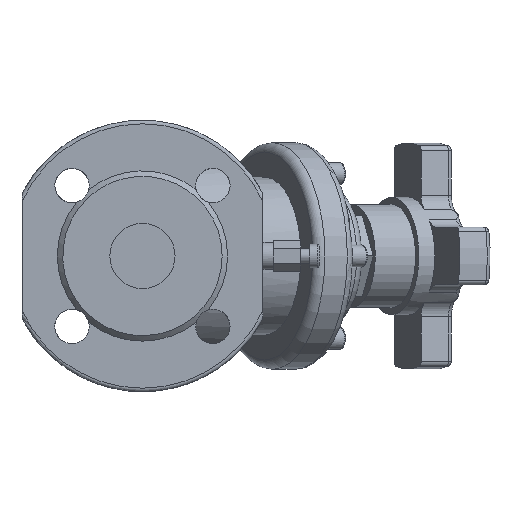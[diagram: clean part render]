
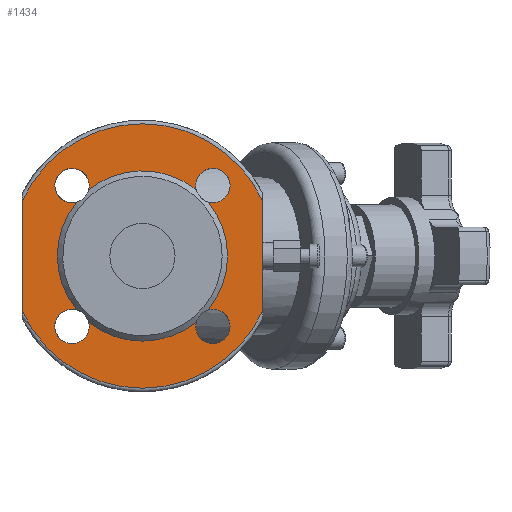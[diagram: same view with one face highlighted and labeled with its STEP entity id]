
A CAD part, left-side view. The second image highlights one B-rep face of the part: STEP entity #1434.
In plain terms, the highlighted planar face has unit normal (-1, 0, 0).
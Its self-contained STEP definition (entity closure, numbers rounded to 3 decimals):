
#1434=ADVANCED_FACE('',(#8495,#8497),#8499,.F.);
#8495=FACE_BOUND('',#8496,.T.);
#8496=EDGE_LOOP('',(#10005,#10006,#10007,#10008));
#8497=FACE_BOUND('',#8498,.T.);
#8498=EDGE_LOOP('',(#10009,#10010,#10011,#10012,#10013,#10014,#10015,#10016,#10017,
#10018,#10019,#10020,#10021));
#8499=PLANE('',#8500);
#8500=AXIS2_PLACEMENT_3D('',#8501,#8502,#8503);
#8501=CARTESIAN_POINT('',(19150.629,1591.446,0.));
#8502=DIRECTION('',(1.,0.,0.));
#8503=DIRECTION('',(0.,0.,1.));
#10005=ORIENTED_EDGE('',*,*,#10907,.F.);
#10006=ORIENTED_EDGE('',*,*,#10529,.T.);
#10007=ORIENTED_EDGE('',*,*,#10909,.F.);
#10008=ORIENTED_EDGE('',*,*,#10903,.T.);
#10009=ORIENTED_EDGE('',*,*,#10910,.F.);
#10010=ORIENTED_EDGE('',*,*,#10911,.F.);
#10011=ORIENTED_EDGE('',*,*,#10912,.F.);
#10012=ORIENTED_EDGE('',*,*,#10913,.F.);
#10013=ORIENTED_EDGE('',*,*,#10914,.F.);
#10014=ORIENTED_EDGE('',*,*,#10915,.F.);
#10015=ORIENTED_EDGE('',*,*,#10916,.F.);
#10016=ORIENTED_EDGE('',*,*,#10917,.F.);
#10017=ORIENTED_EDGE('',*,*,#10918,.F.);
#10018=ORIENTED_EDGE('',*,*,#10919,.F.);
#10019=ORIENTED_EDGE('',*,*,#10920,.F.);
#10020=ORIENTED_EDGE('',*,*,#10921,.F.);
#10021=ORIENTED_EDGE('',*,*,#10922,.F.);
#10529=EDGE_CURVE('',#11211,#11209,#11212,.T.);
#10903=EDGE_CURVE('',#11835,#11833,#11836,.T.);
#10907=EDGE_CURVE('',#11211,#11833,#11842,.T.);
#10909=EDGE_CURVE('',#11835,#11209,#11844,.T.);
#10910=EDGE_CURVE('',#11845,#11846,#11847,.T.);
#10911=EDGE_CURVE('',#11848,#11845,#11849,.T.);
#10912=EDGE_CURVE('',#11850,#11848,#11851,.T.);
#10913=EDGE_CURVE('',#11852,#11850,#11853,.T.);
#10914=EDGE_CURVE('',#11854,#11852,#11855,.T.);
#10915=EDGE_CURVE('',#11856,#11854,#11857,.T.);
#10916=EDGE_CURVE('',#11858,#11856,#11859,.T.);
#10917=EDGE_CURVE('',#11860,#11858,#11861,.T.);
#10918=EDGE_CURVE('',#11862,#11860,#11863,.T.);
#10919=EDGE_CURVE('',#11864,#11862,#11865,.T.);
#10920=EDGE_CURVE('',#11866,#11864,#11867,.T.);
#10921=EDGE_CURVE('',#11868,#11866,#11869,.T.);
#10922=EDGE_CURVE('',#11846,#11868,#11870,.T.);
#11209=VERTEX_POINT('',#13044);
#11211=VERTEX_POINT('',#13138);
#11212=LINE('',#13139,#13140);
#11833=VERTEX_POINT('',#16346);
#11835=VERTEX_POINT('',#16440);
#11836=LINE('',#16441,#16442);
#11842=CIRCLE('',#16616,73.);
#11844=CIRCLE('',#16624,73.);
#11845=VERTEX_POINT('',#16628);
#11846=VERTEX_POINT('',#16629);
#11847=CIRCLE('',#16630,9.5);
#11848=VERTEX_POINT('',#16634);
#11849=CIRCLE('',#16635,9.5);
#11850=VERTEX_POINT('',#16639);
#11851=CIRCLE('',#16640,47.);
#11852=VERTEX_POINT('',#16644);
#11853=CIRCLE('',#16645,47.);
#11854=VERTEX_POINT('',#16649);
#11855=CIRCLE('',#16650,9.5);
#11856=VERTEX_POINT('',#16654);
#11857=CIRCLE('',#16655,9.5);
#11858=VERTEX_POINT('',#16659);
#11859=CIRCLE('',#16660,47.);
#11860=VERTEX_POINT('',#16664);
#11861=CIRCLE('',#16665,9.5);
#11862=VERTEX_POINT('',#16669);
#11863=CIRCLE('',#16670,9.5);
#11864=VERTEX_POINT('',#16674);
#11865=CIRCLE('',#16675,47.);
#11866=VERTEX_POINT('',#16679);
#11867=CIRCLE('',#16680,9.5);
#11868=VERTEX_POINT('',#16684);
#11869=CIRCLE('',#16685,9.5);
#11870=CIRCLE('',#16689,47.);
#13044=CARTESIAN_POINT('',(19150.629,1599.946,30.112));
#13138=CARTESIAN_POINT('',(19150.629,1599.946,-30.112));
#13139=CARTESIAN_POINT('',(19150.629,1599.946,-30.112));
#13140=VECTOR('',#13141,1.);
#13141=DIRECTION('',(0.,0.,1.));
#16346=CARTESIAN_POINT('',(19150.629,1732.946,-30.112));
#16440=CARTESIAN_POINT('',(19150.629,1732.946,30.112));
#16441=CARTESIAN_POINT('',(19150.629,1732.946,30.112));
#16442=VECTOR('',#16443,1.);
#16443=DIRECTION('',(0.,0.,-1.));
#16616=AXIS2_PLACEMENT_3D('',#16617,#16618,#16619);
#16617=CARTESIAN_POINT('',(19150.629,1666.446,0.));
#16618=DIRECTION('',(1.,0.,0.));
#16619=DIRECTION('',(0.,-0.911,-0.412));
#16624=AXIS2_PLACEMENT_3D('',#16625,#16626,#16627);
#16625=CARTESIAN_POINT('',(19150.629,1666.446,0.));
#16626=DIRECTION('',(1.,0.,0.));
#16627=DIRECTION('',(0.,0.911,0.412));
#16628=CARTESIAN_POINT('',(19150.629,1711.111,31.347));
#16629=CARTESIAN_POINT('',(19150.629,1702.856,29.721));
#16630=AXIS2_PLACEMENT_3D('',#16631,#16632,#16633);
#16631=CARTESIAN_POINT('',(19150.629,1705.337,38.891));
#16632=DIRECTION('',(-1.,0.,0.));
#16633=DIRECTION('',(0.,0.608,-0.794));
#16634=CARTESIAN_POINT('',(19150.629,1696.166,36.41));
#16635=AXIS2_PLACEMENT_3D('',#16636,#16637,#16638);
#16636=CARTESIAN_POINT('',(19150.629,1705.337,38.891));
#16637=DIRECTION('',(-1.,0.,0.));
#16638=DIRECTION('',(0.,-0.965,-0.261));
#16639=CARTESIAN_POINT('',(19150.629,1646.295,42.461));
#16640=AXIS2_PLACEMENT_3D('',#16641,#16642,#16643);
#16641=CARTESIAN_POINT('',(19150.629,1666.446,0.));
#16642=DIRECTION('',(-1.,0.,0.));
#16643=DIRECTION('',(0.,-0.429,0.903));
#16644=CARTESIAN_POINT('',(19150.629,1636.725,36.41));
#16645=AXIS2_PLACEMENT_3D('',#16646,#16647,#16648);
#16646=CARTESIAN_POINT('',(19150.629,1666.446,0.));
#16647=DIRECTION('',(-1.,0.,0.));
#16648=DIRECTION('',(0.,-0.632,0.775));
#16649=CARTESIAN_POINT('',(19150.629,1636.972,37.64));
#16650=AXIS2_PLACEMENT_3D('',#16651,#16652,#16653);
#16651=CARTESIAN_POINT('',(19150.629,1627.555,38.891));
#16652=DIRECTION('',(-1.,0.,0.));
#16653=DIRECTION('',(0.,0.991,-0.132));
#16654=CARTESIAN_POINT('',(19150.629,1630.036,29.721));
#16655=AXIS2_PLACEMENT_3D('',#16656,#16657,#16658);
#16656=CARTESIAN_POINT('',(19150.629,1627.555,38.891));
#16657=DIRECTION('',(-1.,0.,0.));
#16658=DIRECTION('',(0.,0.261,-0.965));
#16659=CARTESIAN_POINT('',(19150.629,1630.036,-29.721));
#16660=AXIS2_PLACEMENT_3D('',#16661,#16662,#16663);
#16661=CARTESIAN_POINT('',(19150.629,1666.446,0.));
#16662=DIRECTION('',(-1.,0.,0.));
#16663=DIRECTION('',(0.,-0.775,-0.632));
#16664=CARTESIAN_POINT('',(19150.629,1620.011,-44.665));
#16665=AXIS2_PLACEMENT_3D('',#16666,#16667,#16668);
#16666=CARTESIAN_POINT('',(19150.629,1627.555,-38.891));
#16667=DIRECTION('',(-1.,0.,0.));
#16668=DIRECTION('',(0.,-0.794,-0.608));
#16669=CARTESIAN_POINT('',(19150.629,1636.725,-36.41));
#16670=AXIS2_PLACEMENT_3D('',#16671,#16672,#16673);
#16671=CARTESIAN_POINT('',(19150.629,1627.555,-38.891));
#16672=DIRECTION('',(-1.,0.,0.));
#16673=DIRECTION('',(0.,0.965,0.261));
#16674=CARTESIAN_POINT('',(19150.629,1696.166,-36.41));
#16675=AXIS2_PLACEMENT_3D('',#16676,#16677,#16678);
#16676=CARTESIAN_POINT('',(19150.629,1666.446,0.));
#16677=DIRECTION('',(-1.,0.,0.));
#16678=DIRECTION('',(0.,0.632,-0.775));
#16679=CARTESIAN_POINT('',(19150.629,1704.086,-48.308));
#16680=AXIS2_PLACEMENT_3D('',#16681,#16682,#16683);
#16681=CARTESIAN_POINT('',(19150.629,1705.337,-38.891));
#16682=DIRECTION('',(-1.,0.,0.));
#16683=DIRECTION('',(0.,-0.132,-0.991));
#16684=CARTESIAN_POINT('',(19150.629,1702.856,-29.721));
#16685=AXIS2_PLACEMENT_3D('',#16686,#16687,#16688);
#16686=CARTESIAN_POINT('',(19150.629,1705.337,-38.891));
#16687=DIRECTION('',(-1.,0.,0.));
#16688=DIRECTION('',(0.,-0.261,0.965));
#16689=AXIS2_PLACEMENT_3D('',#16690,#16691,#16692);
#16690=CARTESIAN_POINT('',(19150.629,1666.446,0.));
#16691=DIRECTION('',(-1.,0.,0.));
#16692=DIRECTION('',(0.,0.775,0.632));
